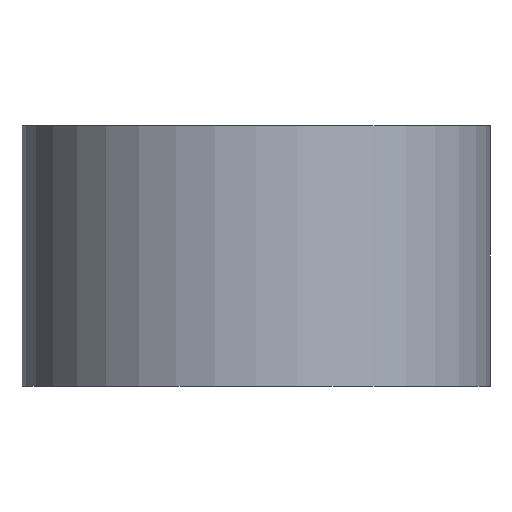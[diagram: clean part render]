
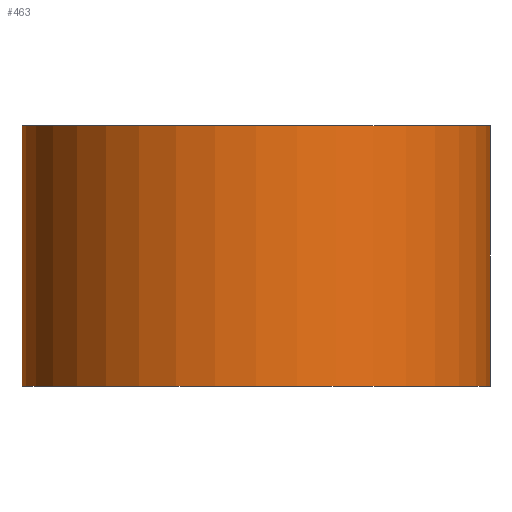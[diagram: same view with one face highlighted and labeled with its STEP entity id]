
A CAD part, front view. The second image highlights one B-rep face of the part: STEP entity #463.
In plain terms, the highlighted cylindrical face has radius 57.5 mm (diameter 115 mm), a partial arc.
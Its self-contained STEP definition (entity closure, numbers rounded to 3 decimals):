
#71 = CARTESIAN_POINT ( 'NONE',  ( -57.5, 0., 0. ) ) ;
#85 = CARTESIAN_POINT ( 'NONE',  ( 57.5, 0., 64. ) ) ;
#95 = CARTESIAN_POINT ( 'NONE',  ( -57.5, 0., 64. ) ) ;
#96 = CARTESIAN_POINT ( 'NONE',  ( 57.5, 0., 0. ) ) ;
#203 = CARTESIAN_POINT ( 'NONE',  ( 0., 0., 1.5 ) ) ;
#204 = DIRECTION ( 'NONE',  ( 0., 0., -1. ) ) ;
#209 = DIRECTION ( 'NONE',  ( -1., 0., 0. ) ) ;
#228 = DIRECTION ( 'NONE',  ( 1., 0., 0. ) ) ;
#233 = DIRECTION ( 'NONE',  ( 0., 0., 1. ) ) ;
#234 = CARTESIAN_POINT ( 'NONE',  ( 0., 0., 64. ) ) ;
#241 = DIRECTION ( 'NONE',  ( 0., 0., -1. ) ) ;
#248 = CARTESIAN_POINT ( 'NONE',  ( 57.5, 0., 1.5 ) ) ;
#257 = DIRECTION ( 'NONE',  ( 1., 0., 0. ) ) ;
#258 = DIRECTION ( 'NONE',  ( 0., 0., 1. ) ) ;
#259 = CARTESIAN_POINT ( 'NONE',  ( 0., 0., 0. ) ) ;
#267 = CARTESIAN_POINT ( 'NONE',  ( -57.5, 0., 1.5 ) ) ;
#277 = DIRECTION ( 'NONE',  ( 0., 0., -1. ) ) ;
#315 = EDGE_CURVE ( 'NONE', #685, #701, #825, .T. ) ;
#317 = EDGE_CURVE ( 'NONE', #701, #684, #659, .T. ) ;
#321 = EDGE_CURVE ( 'NONE', #694, #684, #651, .T. ) ;
#322 = EDGE_CURVE ( 'NONE', #685, #694, #652, .T. ) ;
#377 = AXIS2_PLACEMENT_3D ( 'NONE', #203, #204, #209 ) ;
#422 = AXIS2_PLACEMENT_3D ( 'NONE', #234, #233, #228 ) ;
#424 = AXIS2_PLACEMENT_3D ( 'NONE', #259, #258, #257 ) ;
#463 = ADVANCED_FACE ( 'NONE', ( #552 ), #542, .T. ) ;
#542 = CYLINDRICAL_SURFACE ( 'NONE', #377, 57.5 ) ;
#552 = FACE_OUTER_BOUND ( 'NONE', #817, .T. ) ;
#648 = VECTOR ( 'NONE', #241, 1000. ) ;
#651 = LINE ( 'NONE', #248, #648 ) ;
#652 = CIRCLE ( 'NONE', #422, 57.5 ) ;
#658 = VECTOR ( 'NONE', #277, 1000. ) ;
#659 = CIRCLE ( 'NONE', #424, 57.5 ) ;
#684 = VERTEX_POINT ( 'NONE', #96 ) ;
#685 = VERTEX_POINT ( 'NONE', #95 ) ;
#694 = VERTEX_POINT ( 'NONE', #85 ) ;
#701 = VERTEX_POINT ( 'NONE', #71 ) ;
#741 = ORIENTED_EDGE ( 'NONE', *, *, #317, .T. ) ;
#742 = ORIENTED_EDGE ( 'NONE', *, *, #321, .F. ) ;
#743 = ORIENTED_EDGE ( 'NONE', *, *, #322, .F. ) ;
#744 = ORIENTED_EDGE ( 'NONE', *, *, #315, .T. ) ;
#817 = EDGE_LOOP ( 'NONE', ( #741, #742, #743, #744 ) ) ;
#825 = LINE ( 'NONE', #267, #658 ) ;
